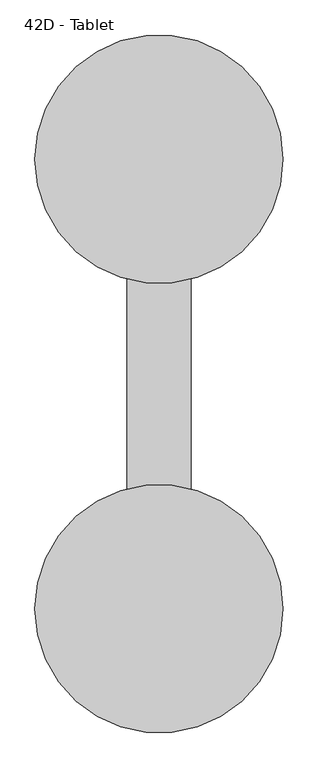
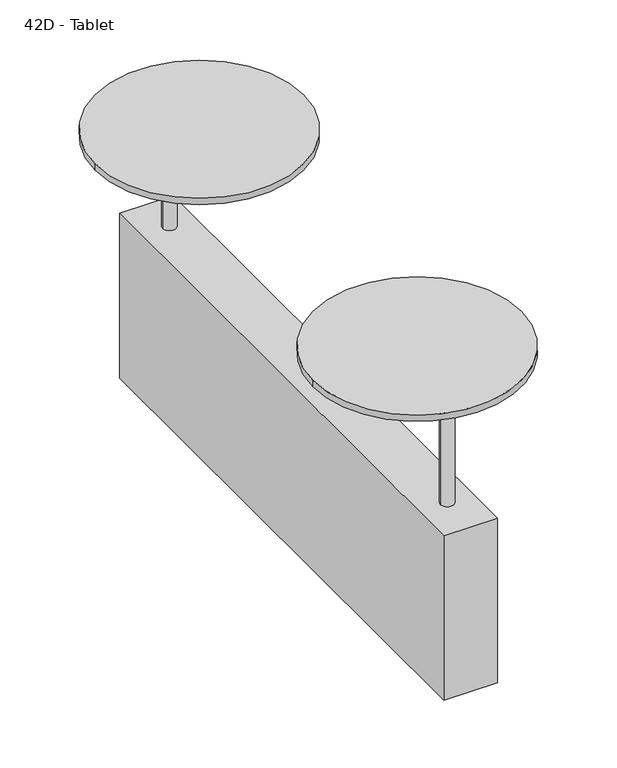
"""IFC4 building model written with IfcOpenShell, lengths in millimetres: furniture geometry, Coalesse_AM_Table_Occasional_Await_Connector : 42D - Tablet."""

from ifc_helpers import new_model, si_unit, point, frame, frame_2d, origin, place, context, project, spatial, polyline, circle_curve, trimmed, segment, composite_curve, outline, extrude, source, transform, mapped, element, save
from ifc_brep_helpers import plane_surface, cylinder_surface, advanced_brep


def furniture_42d_tablet_758c3c4a(model_context):
    return source(origin(), model_context, "Body", "SolidModel", [
        advanced_brep(
        [(-625.817922, -240.9596764, 631.825), (-702.017922, -240.9596764, 631.825), (-663.917922, -240.9596764, 631.825), (-625.817922, -240.9596764, 623.8875), (-702.017922, -240.9596764, 623.8875), (-651.217922, -240.9596764, 623.8875), (-676.617922, -240.9596764, 623.8875), (-651.217922, -240.9596764, 390.525), (-676.617922, -240.9596764, 390.525), (-663.917922, -240.9596764, 390.525)],
        [
            (0, 1, circle_curve(frame((-663.917922, -240.9596764, 631.825), z_axis=(0.0, 0.0, 1.0), x_axis=(-1.0, 0.0, 0.0)), 38.1)),
            (1, 2),
            (2, 0),
            (1, 0, circle_curve(frame((-663.917922, -240.9596764, 631.825), z_axis=(0.0, 0.0, 1.0), x_axis=(-1.0, 0.0, 0.0)), 38.1)),
            (3, 4, circle_curve(frame((-663.917922, -240.9596764, 623.8875), z_axis=(0.0, 0.0, 1.0), x_axis=(-1.0, 0.0, 0.0)), 38.1)),
            (4, 1),
            (0, 3),
            (4, 3, circle_curve(frame((-663.917922, -240.9596764, 623.8875), z_axis=(0.0, 0.0, 1.0), x_axis=(-1.0, 0.0, 0.0)), 38.1)),
            (5, 6, circle_curve(frame((-663.917922, -240.9596764, 623.8875), z_axis=(0.0, 0.0, 1.0), x_axis=(-1.0, 0.0, 0.0)), 12.7)),
            (6, 4),
            (3, 5),
            (6, 5, circle_curve(frame((-663.917922, -240.9596764, 623.8875), z_axis=(0.0, 0.0, 1.0), x_axis=(-1.0, 0.0, 0.0)), 12.7)),
            (7, 8, circle_curve(frame((-663.917922, -240.9596764, 390.525), z_axis=(0.0, 0.0, 1.0), x_axis=(-1.0, 0.0, 0.0)), 12.7)),
            (8, 6),
            (5, 7),
            (8, 7, circle_curve(frame((-663.917922, -240.9596764, 390.525), z_axis=(0.0, 0.0, 1.0), x_axis=(-1.0, 0.0, 0.0)), 12.7)),
            (9, 8),
            (7, 9),
        ],
        [
            plane_surface(frame((-663.917922, -240.9596764, 631.825), z_axis=(0.0, 0.0, 1.0), x_axis=(-1.0, 0.0, 0.0))),
            cylinder_surface(frame((-663.917922, -240.9596764, 631.825), z_axis=(0.0, 0.0, -1.0), x_axis=(-1.0, 0.0, 0.0)), 38.1),
            plane_surface(frame((-663.917922, -240.9596764, 623.8875), z_axis=(0.0, 0.0, -1.0), x_axis=(-1.0, 0.0, 0.0))),
            cylinder_surface(frame((-663.917922, -240.9596764, 631.825), z_axis=(0.0, 0.0, -1.0), x_axis=(-1.0, 0.0, 0.0)), 12.7),
            plane_surface(frame((-663.917922, -240.9596764, 390.525), z_axis=(0.0, 0.0, -1.0), x_axis=(-1.0, 0.0, 0.0))),
        ],
        [
            (0, [[1, 2, 3]]),
            (0, [[4, -3, -2]]),
            (1, [[5, 6, -1, 7]]),
            (1, [[8, -7, -4, -6]]),
            (2, [[9, 10, -5, 11]]),
            (2, [[12, -11, -8, -10]]),
            (3, [[13, 14, -9, 15]]),
            (3, [[16, -15, -12, -14]]),
            (4, [[17, -13, 18]]),
            (4, [[-18, -16, -17]]),
        ],
    ),
        extrude(outline(composite_curve([segment(trimmed(circle_curve(frame_2d((-663.917922, -142.0336883)), 198.12), [point((-862.037922, -142.0336883))], [point((-465.797922, -142.0336883))], False, "CARTESIAN"), True, "CONTINUOUS"), segment(trimmed(circle_curve(frame_2d((-663.917922, -142.0336883)), 198.12), [point((-465.797922, -142.0336883))], [point((-862.037922, -142.0336883))], False, "CARTESIAN"), True, "CONTINUOUS")], self_intersect=False)), frame((0.0, 0.0, 631.825), z_axis=(0.0, 0.0, 1.0), x_axis=(1.0, 0.0, 0.0)), (0.0, 0.0, 1.0), 12.7),
        extrude(outline(composite_curve([segment(trimmed(circle_curve(frame_2d((-663.917922, 574.5143355)), 198.12), [point((-862.037922, 574.5143355))], [point((-465.797922, 574.5143355))], False, "CARTESIAN"), True, "CONTINUOUS"), segment(trimmed(circle_curve(frame_2d((-663.917922, 574.5143355)), 198.12), [point((-465.797922, 574.5143355))], [point((-862.037922, 574.5143355))], False, "CARTESIAN"), True, "CONTINUOUS")], self_intersect=False)), frame((0.0, 0.0, 631.825), z_axis=(0.0, 0.0, 1.0), x_axis=(1.0, 0.0, 0.0)), (0.0, 0.0, 1.0), 12.7),
        advanced_brep(
        [(-625.817922, 673.4403236, 631.825), (-702.017922, 673.4403236, 631.825), (-663.917922, 673.4403236, 631.825), (-625.817922, 673.4403236, 623.8875), (-702.017922, 673.4403236, 623.8875), (-651.217922, 673.4403236, 623.8875), (-676.617922, 673.4403236, 623.8875), (-651.217922, 673.4403236, 390.525), (-676.617922, 673.4403236, 390.525), (-663.917922, 673.4403236, 390.525)],
        [
            (0, 1, circle_curve(frame((-663.917922, 673.4403236, 631.825), z_axis=(0.0, 0.0, 1.0), x_axis=(-1.0, 0.0, 0.0)), 38.1)),
            (1, 2),
            (2, 0),
            (1, 0, circle_curve(frame((-663.917922, 673.4403236, 631.825), z_axis=(0.0, 0.0, 1.0), x_axis=(-1.0, 0.0, 0.0)), 38.1)),
            (3, 4, circle_curve(frame((-663.917922, 673.4403236, 623.8875), z_axis=(0.0, 0.0, 1.0), x_axis=(-1.0, 0.0, 0.0)), 38.1)),
            (4, 1),
            (0, 3),
            (4, 3, circle_curve(frame((-663.917922, 673.4403236, 623.8875), z_axis=(0.0, 0.0, 1.0), x_axis=(-1.0, 0.0, 0.0)), 38.1)),
            (5, 6, circle_curve(frame((-663.917922, 673.4403236, 623.8875), z_axis=(0.0, 0.0, 1.0), x_axis=(-1.0, 0.0, 0.0)), 12.7)),
            (6, 4),
            (3, 5),
            (6, 5, circle_curve(frame((-663.917922, 673.4403236, 623.8875), z_axis=(0.0, 0.0, 1.0), x_axis=(-1.0, 0.0, 0.0)), 12.7)),
            (7, 8, circle_curve(frame((-663.917922, 673.4403236, 390.525), z_axis=(0.0, 0.0, 1.0), x_axis=(-1.0, 0.0, 0.0)), 12.7)),
            (8, 6),
            (5, 7),
            (8, 7, circle_curve(frame((-663.917922, 673.4403236, 390.525), z_axis=(0.0, 0.0, 1.0), x_axis=(-1.0, 0.0, 0.0)), 12.7)),
            (9, 8),
            (7, 9),
        ],
        [
            plane_surface(frame((-663.917922, 673.4403236, 631.825), z_axis=(0.0, 0.0, 1.0), x_axis=(-1.0, 0.0, 0.0))),
            cylinder_surface(frame((-663.917922, 673.4403236, 631.825), z_axis=(0.0, 0.0, -1.0), x_axis=(-1.0, 0.0, 0.0)), 38.1),
            plane_surface(frame((-663.917922, 673.4403236, 623.8875), z_axis=(0.0, 0.0, -1.0), x_axis=(-1.0, 0.0, 0.0))),
            cylinder_surface(frame((-663.917922, 673.4403236, 631.825), z_axis=(0.0, 0.0, -1.0), x_axis=(-1.0, 0.0, 0.0)), 12.7),
            plane_surface(frame((-663.917922, 673.4403236, 390.525), z_axis=(0.0, 0.0, -1.0), x_axis=(-1.0, 0.0, 0.0))),
        ],
        [
            (0, [[1, 2, 3]]),
            (0, [[4, -3, -2]]),
            (1, [[5, 6, -1, 7]]),
            (1, [[8, -7, -4, -6]]),
            (2, [[9, 10, -5, 11]]),
            (2, [[12, -11, -8, -10]]),
            (3, [[13, 14, -9, 15]]),
            (3, [[16, -15, -12, -14]]),
            (4, [[17, -13, 18]]),
            (4, [[-18, -16, -17]]),
        ],
    ),
        extrude(outline(polyline([(-613.117922, 749.6403236), (-613.117922, -317.1596764), (-714.717922, -317.1596764), (-714.717922, 749.6403236), (-613.117922, 749.6403236)])), frame((0.0, 0.0, 57.15), z_axis=(0.0, 0.0, 1.0), x_axis=(1.0, 0.0, 0.0)), (0.0, 0.0, 1.0), 330.2),
    ])


if __name__ == "__main__":
    model = new_model("IFC4")
    model_context = context("Model", 3, world=origin())
    ifc_project = project(units=[si_unit("LENGTHUNIT", "METRE", prefix="MILLI")], contexts=[model_context])
    site = spatial("IfcSite", under=ifc_project)
    building = spatial("IfcBuilding", under=site)
    placement = place(None, origin())
    furniture_42d_tablet_shape = furniture_42d_tablet_758c3c4a(model_context)
    element("IfcFurniture", 1, ObjectType="Coalesse_AM_Table_Occasional_Await_Connector : 42D - Tablet", at=placement, inside=building, context=model_context, shape_type="MappedRepresentation", body=[
        mapped(furniture_42d_tablet_shape, transform((0.0, 0.0, 0.0), x_axis=(1.0, 0.0, 0.0), y_axis=(0.0, 1.0, 0.0), z_axis=(0.0, 0.0, 1.0))),
    ])
    save(model, "model.ifc")
